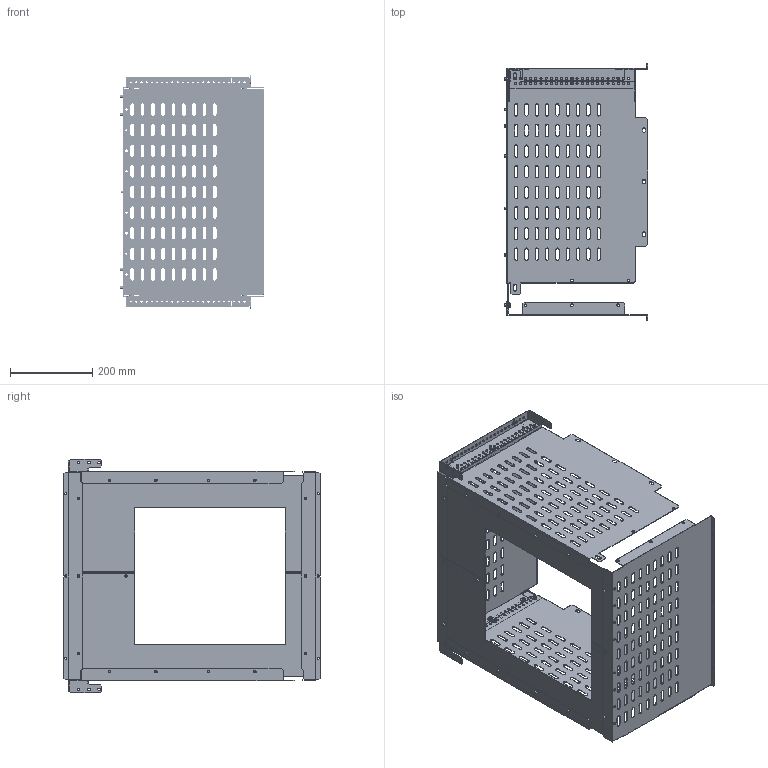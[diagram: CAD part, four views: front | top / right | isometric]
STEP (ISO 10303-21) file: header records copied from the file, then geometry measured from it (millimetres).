
FILE_DESCRIPTION (( 'STEP AP214' ), '1' );
FILE_NAME ('FO-00-3ADW-060-060 Êîìïëåêò ñåêöèîíèðîâàíèÿ 2a-3a äëÿ ARMAT ACB òèïîðàçìåð D âûêàòíîãî èñïîëíåíèÿ 3P 600õ600.STEP', '2025-08-21T08:12:44', ( '' ), ( '' ), 'SwSTEP 2.0', 'SolidWorks 2023', '' );
FILE_SCHEMA (( 'AUTOMOTIVE_DESIGN' ));
Products named in the file (1): FO-00-3ADW-060-060 Комплект секционирования 2a-3a для ARMAT ACB типоразмер D выкатного исполнения 3P 600х600
Bounding box: 349 x 622 x 566 mm (x, y, z)
Volume: 1412893.1 mm3; surface area: 1790800.6 mm2
Topology: 1 solids, 17 shells, 3042 faces, 8666 edges, 5710 vertices
Faces by surface type: cylinder 1752, plane 1128, sphere 54, cone 54, torus 54
Entity records: 103287 total; most frequent: CARTESIAN_POINT 19838, DIRECTION 17606, ORIENTED_EDGE 17332, EDGE_CURVE 8666, AXIS2_PLACEMENT_3D 6396, VERTEX_POINT 5710, VECTOR 4814, LINE 4814
